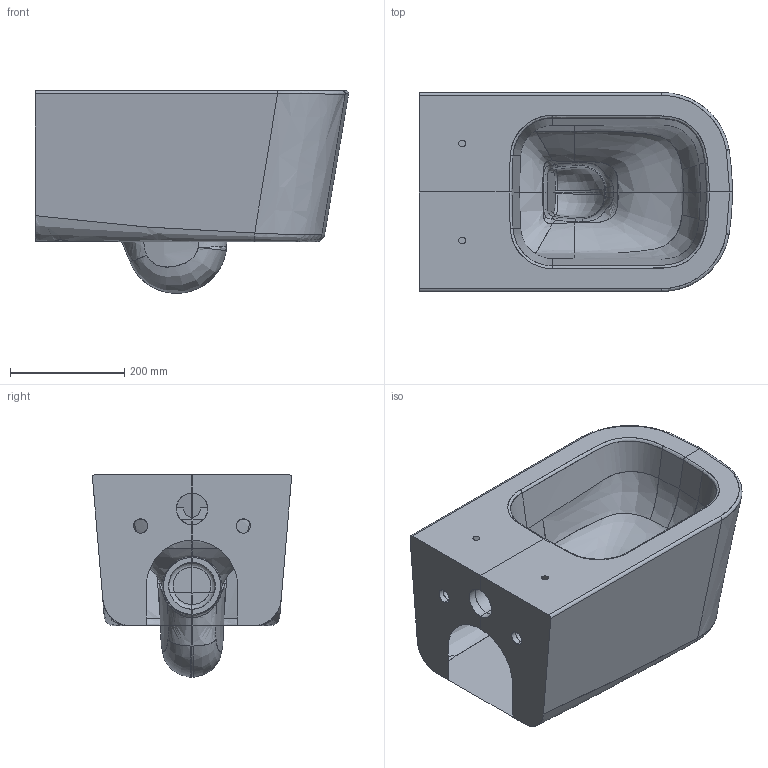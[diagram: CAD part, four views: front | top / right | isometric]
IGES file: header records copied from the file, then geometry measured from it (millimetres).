
Start section: START RECORD GO HERE.
Global section: file name: 5486_Vaso sosp Meg senza brida.igs; native system: DASSAULT SYSTEMES CATIA V5 R19 - www.3ds.com; preprocessor: CATIA Version 5 Release 19 SP 5 ; author: gioge; organization: LAPTOP-G94B6G74; date: 20200630.122304; units: millimetre
Bounding box: 549.08 x 349.1 x 355.4 mm (x, y, z)
Surface area: 994086.3 mm2 (no closed solid volume)
Topology: 0 solids, 0 shells, 179 faces, 1029 edges, 1021 vertices
Faces by surface type: bspline 152, plane 19, revolution 6, extrusion 2
